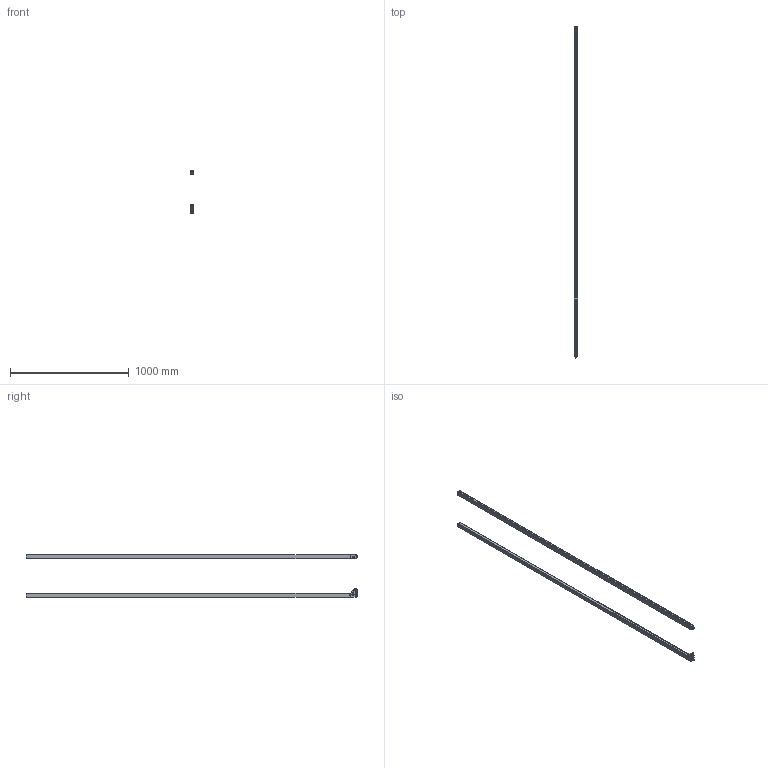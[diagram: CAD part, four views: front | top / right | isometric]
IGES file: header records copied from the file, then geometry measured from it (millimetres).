
Global section: file name: E:\lem\3DCAD_CML700i_PN_2720.igs; native system: NX V8.5; preprocessor: SIEMENS PLM Software NX 8.5; date: 20170919.135514; units: millimetre
Bounding box: 28.99 x 2792.8 x 361.11 mm (x, y, z)
Surface area: 858372 mm2 (no closed solid volume)
Topology: 0 solids, 0 shells, 2473 faces, 14638 edges, 14482 vertices
Faces by surface type: bspline 2473
